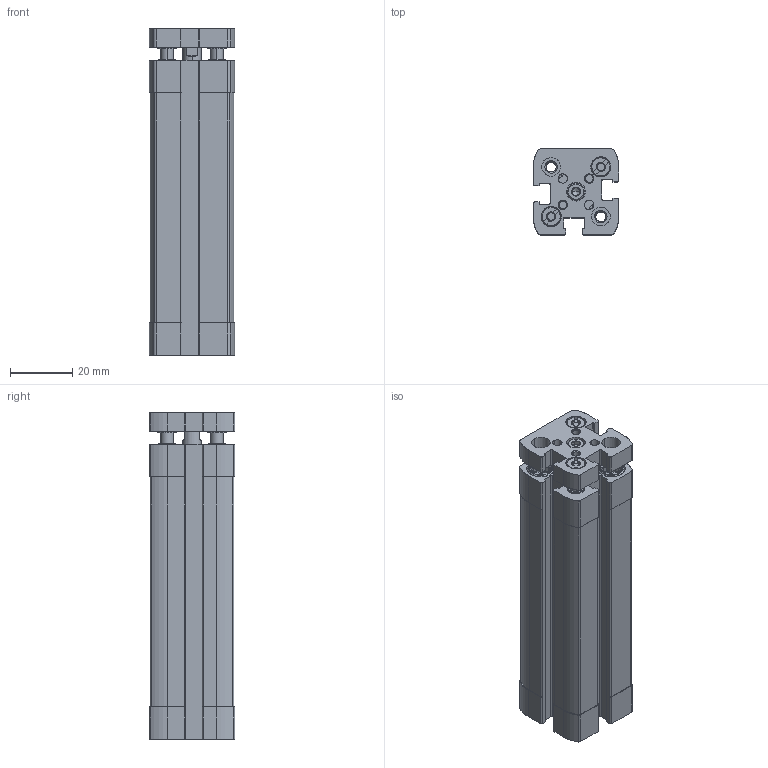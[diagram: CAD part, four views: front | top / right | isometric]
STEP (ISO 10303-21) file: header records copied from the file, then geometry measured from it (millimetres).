
FILE_DESCRIPTION(('CATIA V5 STEP'),'2;1');
FILE_NAME('F:\537123_ADNGF-12-60-P-A.stp','2015-01-19T14:34:06+00:00',('McH'),('none'),'CATIA Version 5 Release 21 SP 2 (IN-10)','CATIA V5 STEP AP214 Edition 3','none');
FILE_SCHEMA(('AUTOMOTIVE_DESIGN { 1 0 10303 214 3 1 1 1 }'));
Length unit declared in the file: millimetre
Products named in the file (1): Noname
Bounding box: 27.5 x 27.5 x 105.2 mm (x, y, z)
Surface area: 31070.5 mm2 (no closed solid volume)
Topology: 0 solids, 452 shells, 548 faces, 2619 edges, 2432 vertices
Faces by surface type: extrusion 252, cylinder 214, revolution 82
Entity records: 32389 total; most frequent: CARTESIAN_POINT 10177, ORIENTED_EDGE 2803, EDGE_CURVE 2617, DIRECTION 2600, VERTEX_POINT 2432, VECTOR 1486, LINE 1234, B_SPLINE_CURVE_WITH_KNOTS 1113
